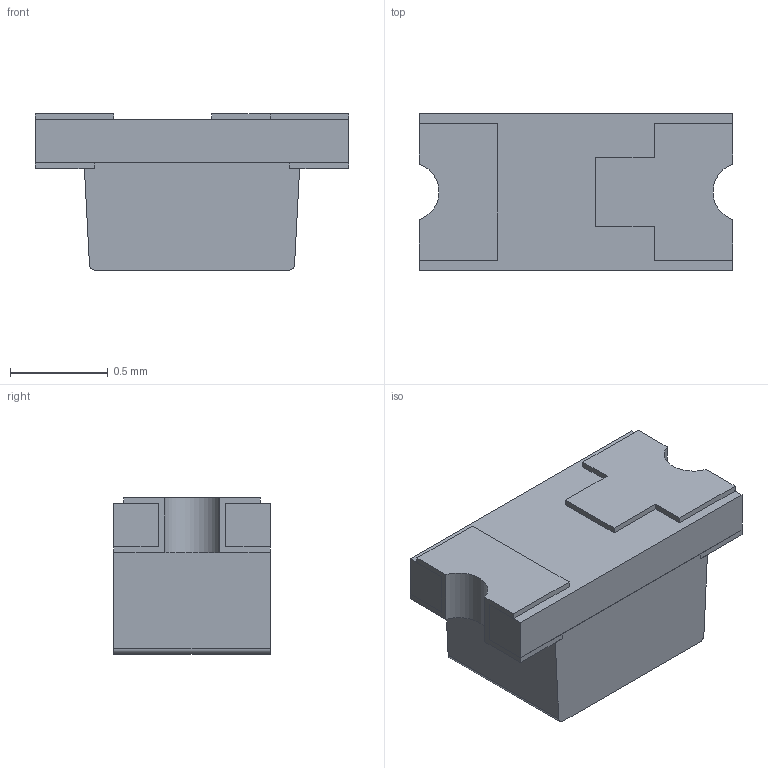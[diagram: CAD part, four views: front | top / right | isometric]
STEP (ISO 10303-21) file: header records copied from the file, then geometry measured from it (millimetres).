
FILE_DESCRIPTION(/* description */ (''),/* implementation_level */ '2;1');
FILE_NAME(/* name */ 'C:\Users\mmangarudov\OneDrive - Vishay Intertechnology, Inc\Visibles\VLMB131.stp',/* time_stamp */ '2023-10-24T07:11:23+02:00',/* author */ ('mmangarudov'),/* organization */ (''),/* preprocessor_version */ 'ST-DEVELOPER v18.1',/* originating_system */ 'Autodesk Inventor 2022',/* authorisation */ '');
FILE_SCHEMA (('AUTOMOTIVE_DESIGN { 1 0 10303 214 3 1 1 }'));
Length unit declared in the file: millimetre
Products named in the file (1): Bauteil2
Bounding box: 1.6 x 0.8 x 0.8 mm (x, y, z)
Volume: 0.8 mm3; surface area: 10.1 mm2
Topology: 4 solids, 4 shells, 54 faces, 138 edges, 92 vertices
Faces by surface type: plane 46, cylinder 8
Entity records: 1739 total; most frequent: CARTESIAN_POINT 285, ORIENTED_EDGE 276, DIRECTION 264, EDGE_CURVE 138, LINE 122, VECTOR 122, VERTEX_POINT 92, AXIS2_PLACEMENT_3D 71
